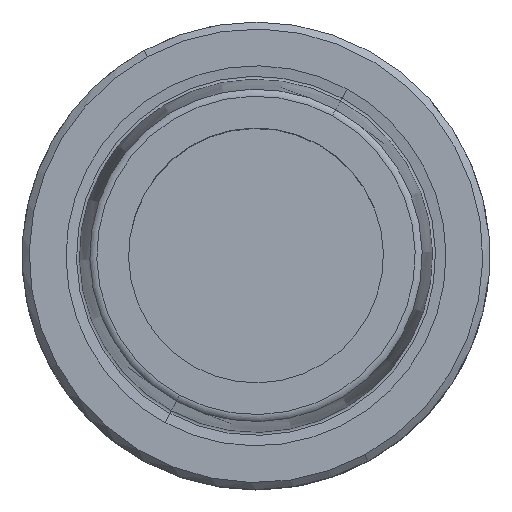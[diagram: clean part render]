
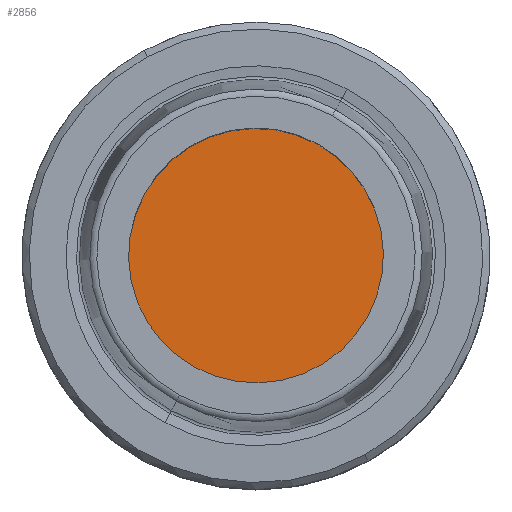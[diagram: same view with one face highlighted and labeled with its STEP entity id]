
A CAD part, top view. The second image highlights one B-rep face of the part: STEP entity #2856.
In plain terms, the highlighted planar face has unit normal (0, 0, 1).
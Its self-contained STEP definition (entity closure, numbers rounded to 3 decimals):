
#2820=AXIS2_PLACEMENT_3D('Circle Axis2P3D',#2818,#2819,$) ;
#2837=AXIS2_PLACEMENT_3D('Circle Axis2P3D',#2835,#2836,$) ;
#2850=AXIS2_PLACEMENT_3D('Plane Axis2P3D',#2847,#2848,#2849) ;
#2808=CARTESIAN_POINT('Vertex',(-5.226,-9.566,-8.)) ;
#2815=CARTESIAN_POINT('Vertex',(5.226,9.566,-8.)) ;
#2818=CARTESIAN_POINT('Axis2P3D Location',(0.,0.,-8.)) ;
#2835=CARTESIAN_POINT('Axis2P3D Location',(0.,0.,-8.)) ;
#2847=CARTESIAN_POINT('Axis2P3D Location',(0.,9.9,-8.)) ;
#2819=DIRECTION('Axis2P3D Direction',(0.,0.,-1.)) ;
#2836=DIRECTION('Axis2P3D Direction',(0.,0.,-1.)) ;
#2848=DIRECTION('Axis2P3D Direction',(0.,0.,-1.)) ;
#2849=DIRECTION('Axis2P3D XDirection',(1.,0.,0.)) ;
#2853=ORIENTED_EDGE('',*,*,#2822,.F.) ;
#2854=ORIENTED_EDGE('',*,*,#2839,.F.) ;
#2856=ADVANCED_FACE('NOCUT',(#2855),#2851,.F.) ;
#2821=CIRCLE('generated circle',#2820,10.9) ;
#2838=CIRCLE('generated circle',#2837,10.9) ;
#2822=EDGE_CURVE('',#2816,#2809,#2821,.T.) ;
#2839=EDGE_CURVE('',#2809,#2816,#2838,.T.) ;
#2852=EDGE_LOOP('',(#2853,#2854)) ;
#2855=FACE_OUTER_BOUND('',#2852,.T.) ;
#2851=PLANE('',#2850) ;
#2809=VERTEX_POINT('',#2808) ;
#2816=VERTEX_POINT('',#2815) ;
